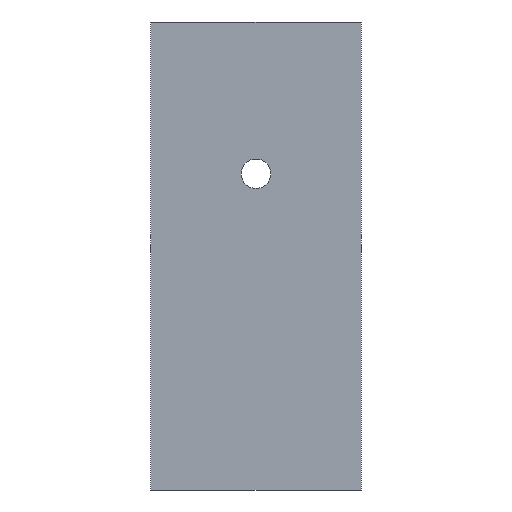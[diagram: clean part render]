
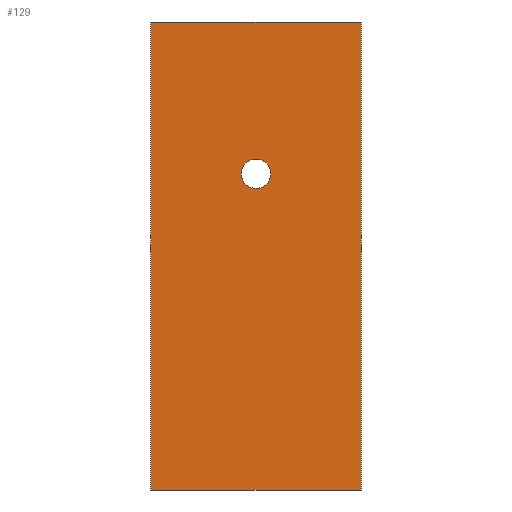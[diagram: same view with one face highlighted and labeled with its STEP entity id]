
A CAD part, front view. The second image highlights one B-rep face of the part: STEP entity #129.
In plain terms, the highlighted planar face has unit normal (0, -1, 0).
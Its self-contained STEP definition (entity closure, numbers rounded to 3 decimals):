
#16=FACE_BOUND('',#38,.T.);
#22=PLANE('',#161);
#29=FACE_OUTER_BOUND('',#37,.T.);
#37=EDGE_LOOP('',(#117,#118,#119,#120));
#38=EDGE_LOOP('',(#121));
#40=LINE('',#205,#53);
#44=LINE('',#213,#57);
#47=LINE('',#219,#60);
#50=LINE('',#224,#63);
#53=VECTOR('',#173,10.);
#57=VECTOR('',#179,10.);
#60=VECTOR('',#184,10.);
#63=VECTOR('',#189,10.);
#65=CIRCLE('',#154,7.);
#67=VERTEX_POINT('',#197);
#69=VERTEX_POINT('',#203);
#70=VERTEX_POINT('',#204);
#73=VERTEX_POINT('',#212);
#75=VERTEX_POINT('',#218);
#77=EDGE_CURVE('',#67,#67,#65,.T.);
#80=EDGE_CURVE('',#69,#70,#40,.T.);
#84=EDGE_CURVE('',#73,#69,#44,.T.);
#87=EDGE_CURVE('',#75,#73,#47,.T.);
#90=EDGE_CURVE('',#70,#75,#50,.T.);
#117=ORIENTED_EDGE('',*,*,#90,.F.);
#118=ORIENTED_EDGE('',*,*,#80,.F.);
#119=ORIENTED_EDGE('',*,*,#84,.F.);
#120=ORIENTED_EDGE('',*,*,#87,.F.);
#121=ORIENTED_EDGE('',*,*,#77,.T.);
#129=ADVANCED_FACE('',(#29,#16),#22,.T.);
#154=AXIS2_PLACEMENT_3D('',#198,#166,#167);
#161=AXIS2_PLACEMENT_3D('',#227,#193,#194);
#166=DIRECTION('center_axis',(0.,1.,0.));
#167=DIRECTION('ref_axis',(1.,0.,0.));
#173=DIRECTION('',(0.,0.,-1.));
#179=DIRECTION('',(1.,0.,0.));
#184=DIRECTION('',(0.,0.,1.));
#189=DIRECTION('',(-1.,0.,0.));
#193=DIRECTION('center_axis',(0.,-1.,0.));
#194=DIRECTION('ref_axis',(0.,0.,-1.));
#197=CARTESIAN_POINT('',(-7.,0.,39.));
#198=CARTESIAN_POINT('Origin',(0.,0.,39.));
#203=CARTESIAN_POINT('',(50.,0.,111.));
#204=CARTESIAN_POINT('',(50.,0.,-111.));
#205=CARTESIAN_POINT('',(50.,0.,111.));
#212=CARTESIAN_POINT('',(-50.,0.,111.));
#213=CARTESIAN_POINT('',(-50.,0.,111.));
#218=CARTESIAN_POINT('',(-50.,0.,-111.));
#219=CARTESIAN_POINT('',(-50.,0.,-111.));
#224=CARTESIAN_POINT('',(50.,0.,-111.));
#227=CARTESIAN_POINT('Origin',(0.,0.,0.));
